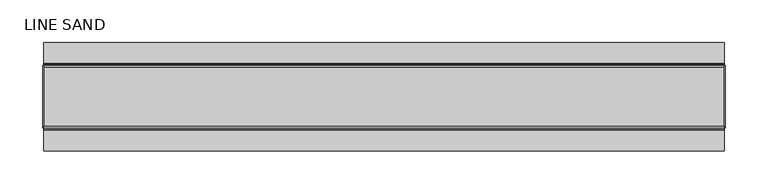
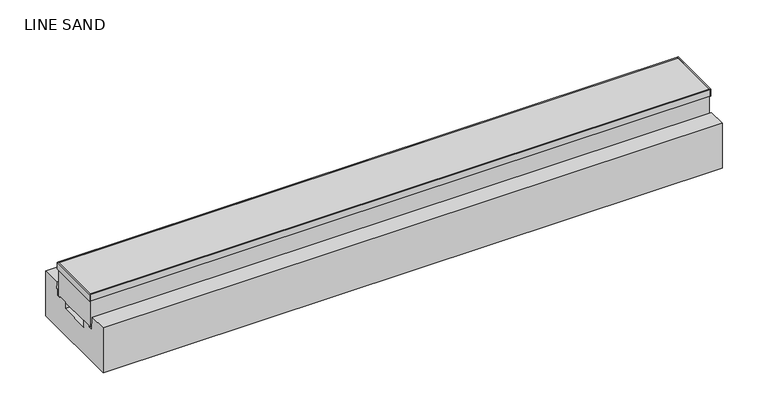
"""IFC4 building model written with IfcOpenShell, lengths in millimetres: proxy geometry, PORTOBELLO - RALO MONOLITH LINE SAND 60X7X4,6 EXT BOLD : LINE SAND."""

from ifc_helpers import new_model, si_unit, frame, origin, place, context, project, spatial, polyline, outline, extrude, source, transform, mapped, element, save


def line_sand_7a71f259(model_context):
    return source(origin(), model_context, "Body", "SweptSolid", [
        extrude(outline(polyline([(-28.7, -29.0), (-4.7, -29.0), (-3.4, -47.0), (3.0, -47.0), (3.0, -45.0), (14.0, -45.0), (14.0, -54.0), (56.0, -54.0), (56.0, -45.0), (67.0, -45.0), (67.0, -47.0), (73.4, -47.0), (74.7, -29.0), (98.7, -29.0), (98.7, -90.0), (-28.7, -90.0), (-28.7, -29.0)])), frame((0.0, 0.0, 0.0), z_axis=(1.0, 0.0, 0.0), x_axis=(0.0, 1.0, 0.0)), (0.0, 0.0, 1.0), 796.9928687),
        extrude(outline(polyline([(796.9928687, -1.5), (0.0, -1.5), (0.0, 0.0), (796.9928687, 0.0), (796.9928687, -1.5)])), frame((0.0, 0.0, -9.0), z_axis=(0.0, 0.0, 1.0), x_axis=(1.0, 0.0, 0.0)), (0.0, 0.0, 1.0), 9.0),
        extrude(outline(polyline([(796.9928687, -1.5), (796.9928687, 71.5), (798.4928687, 71.5), (798.4928687, -1.5), (796.9928687, -1.5)])), frame((0.0, 0.0, -9.0), z_axis=(0.0, 0.0, 1.0), x_axis=(1.0, 0.0, 0.0)), (0.0, 0.0, 1.0), 9.0),
        extrude(outline(polyline([(0.0, -1.5), (-1.5, -1.5), (-1.5, 71.5), (0.0, 71.5), (0.0, -1.5)])), frame((0.0, 0.0, -9.0), z_axis=(0.0, 0.0, 1.0), x_axis=(1.0, 0.0, 0.0)), (0.0, 0.0, 1.0), 9.0),
        extrude(outline(polyline([(796.9928687, 71.5), (796.9928687, 70.0), (0.0, 70.0), (0.0, 71.5), (796.9928687, 71.5)])), frame((0.0, 0.0, -9.0), z_axis=(0.0, 0.0, 1.0), x_axis=(1.0, 0.0, 0.0)), (0.0, 0.0, 1.0), 9.0),
        extrude(outline(polyline([(796.9928687, 70.0), (796.9928687, 0.0), (0.0, 0.0), (0.0, 70.0), (796.9928687, 70.0)])), frame((0.0, 0.0, -45.0), z_axis=(0.0, 0.0, 1.0), x_axis=(1.0, 0.0, 0.0)), (0.0, 0.0, 1.0), 36.0),
        extrude(outline(polyline([(796.9928687, 70.0), (796.9928687, 0.0), (0.0, 0.0), (0.0, 70.0), (796.9928687, 70.0)])), frame((0.0, 0.0, -9.0), z_axis=(0.0, 0.0, 1.0), x_axis=(1.0, 0.0, 0.0)), (0.0, 0.0, 1.0), 9.0),
    ])


if __name__ == "__main__":
    model = new_model("IFC4")
    model_context = context("Model", 3, world=origin())
    ifc_project = project(units=[si_unit("LENGTHUNIT", "METRE", prefix="MILLI")], contexts=[model_context])
    site = spatial("IfcSite", under=ifc_project)
    building = spatial("IfcBuilding", under=site)
    placement = place(None, origin())
    line_sand_shape = line_sand_7a71f259(model_context)
    element("IfcBuildingElementProxy", 1, Name="PORTOBELLO - RALO MONOLITH LINE SAND 60X7X4,6 EXT BOLD : LINE SAND", ObjectType="PORTOBELLO - RALO MONOLITH LINE SAND 60X7X4,6 EXT BOLD : LINE SAND", at=placement, inside=building, context=model_context, shape_type="MappedRepresentation", body=[
        mapped(line_sand_shape, transform((0.0, 0.0, 0.0), x_axis=(1.0, 0.0, 0.0), y_axis=(0.0, 1.0, 0.0), z_axis=(0.0, 0.0, 1.0))),
    ])
    save(model, "model.ifc")
